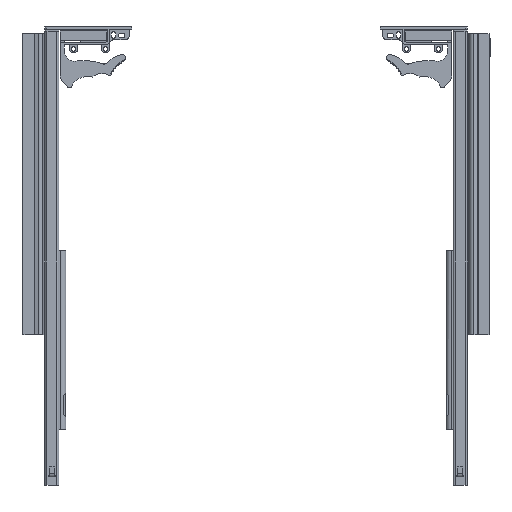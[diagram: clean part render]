
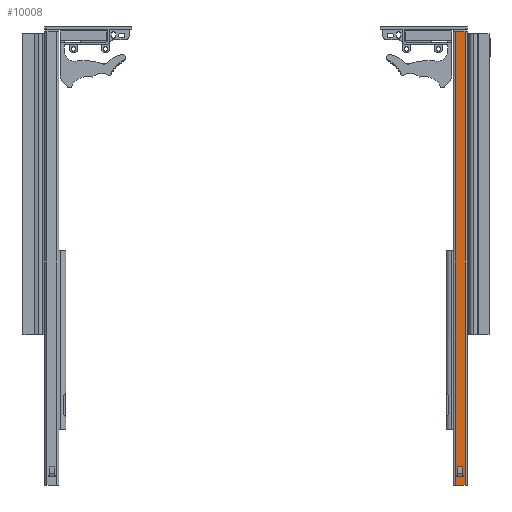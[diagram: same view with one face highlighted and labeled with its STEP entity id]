
A CAD part, front view. The second image highlights one B-rep face of the part: STEP entity #10008.
In plain terms, the highlighted planar face has unit normal (0, -1, 0).
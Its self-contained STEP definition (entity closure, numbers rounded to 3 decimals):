
#215=FACE_BOUND('',#1359,.T.);
#701=FACE_OUTER_BOUND('',#1358,.T.);
#1358=EDGE_LOOP('',(#7687,#7688,#7689,#7690));
#1359=EDGE_LOOP('',(#7691,#7692,#7693,#7694));
#2093=LINE('',#15508,#3073);
#2097=LINE('',#15515,#3077);
#2100=LINE('',#15547,#3080);
#2102=LINE('',#15553,#3082);
#2133=LINE('',#15640,#3113);
#2134=LINE('',#15643,#3114);
#2135=LINE('',#15645,#3115);
#2136=LINE('',#15646,#3116);
#3073=VECTOR('',#12531,10.);
#3077=VECTOR('',#12537,10.);
#3080=VECTOR('',#12542,10.);
#3082=VECTOR('',#12552,10.);
#3113=VECTOR('',#12635,10.);
#3114=VECTOR('',#12638,10.);
#3115=VECTOR('',#12639,10.);
#3116=VECTOR('',#12640,10.);
#4476=VERTEX_POINT('',#15505);
#4477=VERTEX_POINT('',#15507);
#4479=VERTEX_POINT('',#15513);
#4480=VERTEX_POINT('',#15545);
#4509=VERTEX_POINT('',#15636);
#4510=VERTEX_POINT('',#15638);
#4511=VERTEX_POINT('',#15642);
#4512=VERTEX_POINT('',#15644);
#5602=EDGE_CURVE('',#4477,#4476,#2093,.T.);
#5606=EDGE_CURVE('',#4476,#4479,#2097,.T.);
#5610=EDGE_CURVE('',#4479,#4480,#2100,.T.);
#5612=EDGE_CURVE('',#4480,#4477,#2102,.T.);
#5655=EDGE_CURVE('',#4509,#4510,#2133,.T.);
#5656=EDGE_CURVE('',#4509,#4511,#2134,.T.);
#5657=EDGE_CURVE('',#4512,#4510,#2135,.T.);
#5658=EDGE_CURVE('',#4511,#4512,#2136,.T.);
#7687=ORIENTED_EDGE('',*,*,#5656,.F.);
#7688=ORIENTED_EDGE('',*,*,#5655,.T.);
#7689=ORIENTED_EDGE('',*,*,#5657,.F.);
#7690=ORIENTED_EDGE('',*,*,#5658,.F.);
#7691=ORIENTED_EDGE('',*,*,#5602,.T.);
#7692=ORIENTED_EDGE('',*,*,#5606,.T.);
#7693=ORIENTED_EDGE('',*,*,#5610,.T.);
#7694=ORIENTED_EDGE('',*,*,#5612,.T.);
#9326=PLANE('',#10789);
#10008=ADVANCED_FACE('',(#701,#215),#9326,.T.);
#10789=AXIS2_PLACEMENT_3D('',#15641,#12636,#12637);
#12531=DIRECTION('',(0.,0.,-1.));
#12537=DIRECTION('',(-1.,0.,0.));
#12542=DIRECTION('',(0.,0.,1.));
#12552=DIRECTION('',(1.,0.,0.));
#12635=DIRECTION('',(0.,0.,-1.));
#12636=DIRECTION('center_axis',(0.,-1.,0.));
#12637=DIRECTION('ref_axis',(-1.,0.,0.));
#12638=DIRECTION('',(1.,0.,0.));
#12639=DIRECTION('',(-1.,0.,0.));
#12640=DIRECTION('',(0.,0.,-1.));
#15505=CARTESIAN_POINT('',(30.652,8.,-338.597));
#15507=CARTESIAN_POINT('',(30.652,8.,-337.097));
#15508=CARTESIAN_POINT('',(30.652,8.,-114.597));
#15513=CARTESIAN_POINT('',(24.034,8.,-338.597));
#15515=CARTESIAN_POINT('',(29.843,8.,-338.597));
#15545=CARTESIAN_POINT('',(24.034,8.,-337.097));
#15547=CARTESIAN_POINT('',(24.034,8.,-114.597));
#15553=CARTESIAN_POINT('',(29.843,8.,-337.097));
#15636=CARTESIAN_POINT('',(22.343,8.,107.903));
#15638=CARTESIAN_POINT('',(22.343,8.,-347.097));
#15640=CARTESIAN_POINT('',(22.343,8.,107.903));
#15641=CARTESIAN_POINT('Origin',(32.343,8.,107.903));
#15642=CARTESIAN_POINT('',(32.343,8.,107.903));
#15643=CARTESIAN_POINT('',(22.343,8.,107.903));
#15644=CARTESIAN_POINT('',(32.343,8.,-347.097));
#15645=CARTESIAN_POINT('',(22.343,8.,-347.097));
#15646=CARTESIAN_POINT('',(32.343,8.,107.903));
